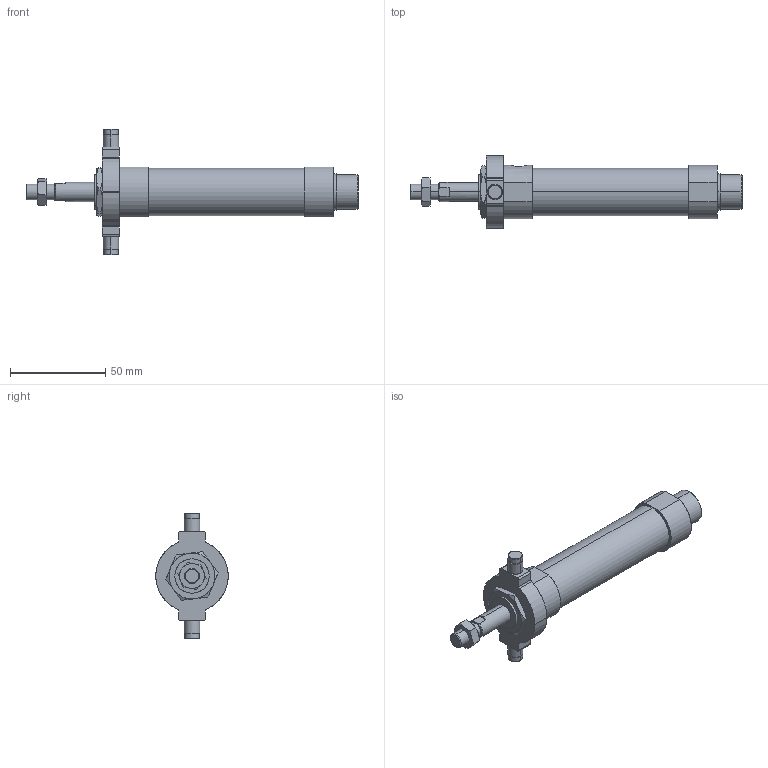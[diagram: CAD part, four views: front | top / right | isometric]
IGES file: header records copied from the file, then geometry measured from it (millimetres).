
Start section: SolidWorks IGES file using analytic representation for surfaces
Global section: file name: C:\Users\Toshiba\Desktop\J#0-20-15-T.IGS; native system: SolidWorks 2014; preprocessor: SolidWorks 2014; author: Toshiba; date: 160308.141559; units: millimetre
Bounding box: 174 x 38 x 66 mm (x, y, z)
Surface area: 19035.4 mm2 (no closed solid volume)
Topology: 0 solids, 0 shells, 128 faces, 2018 edges, 2018 vertices
Faces by surface type: bspline 69, revolution 59
